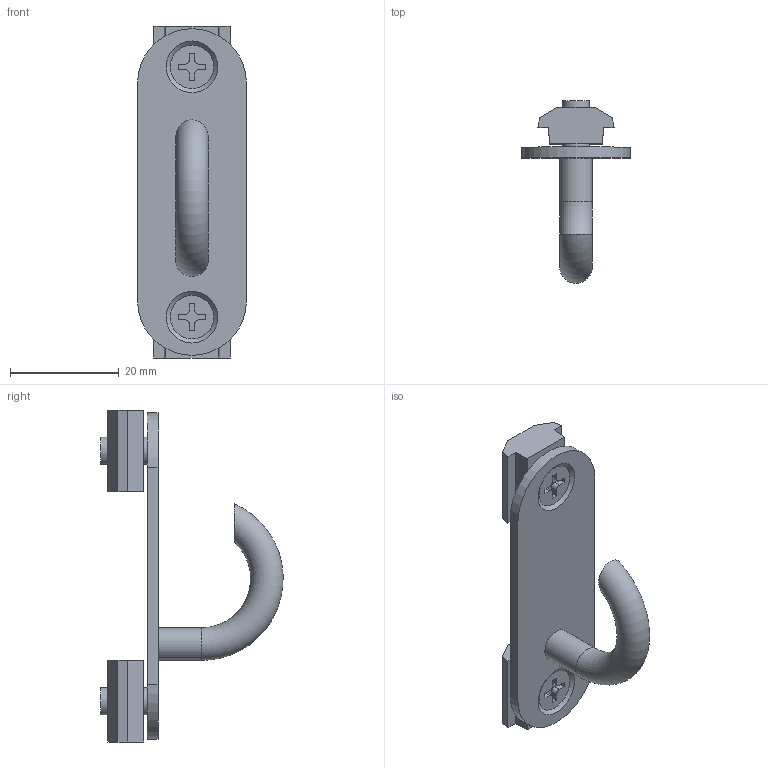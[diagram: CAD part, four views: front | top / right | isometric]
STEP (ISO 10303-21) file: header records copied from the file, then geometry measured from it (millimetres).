
FILE_DESCRIPTION(('STEP AP214'),'1');
FILE_NAME('OPD6-B.stp','2017-07-17T08:20:10',(' '),(' '),'Spatial InterOp 3D',' ',' ');
FILE_SCHEMA(('automotive_design'));
Length unit declared in the file: millimetre
Products named in the file (4): OPD6-B; M5*10小頭皿ﾈｼﾞ; NF40-M5; OPD6-H
Assembly tree (5 placements, depth 2):
  OPD6-B
    M5*10小頭皿ﾈｼﾞ  x2
    NF40-M5  x2
    OPD6-H
Bounding box: 20 x 33.49 x 61 mm (x, y, z)
Volume: 5489.1 mm3; surface area: 5288.7 mm2
Topology: 5 solids, 5 shells, 79 faces, 198 edges, 132 vertices
Faces by surface type: plane 59, cylinder 15, cone 4, torus 1
Full cylindrical faces by diameter (mm): 5 x4, 6 x1
Entity records: 1811 total; most frequent: CARTESIAN_POINT 290, DIRECTION 226, ORIENTED_EDGE 204, EDGE_CURVE 102, LINE 78, VECTOR 78, AXIS2_PLACEMENT_3D 74, VERTEX_POINT 72
